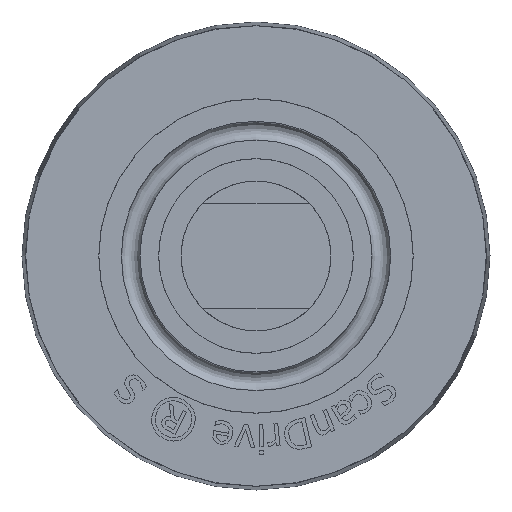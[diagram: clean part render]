
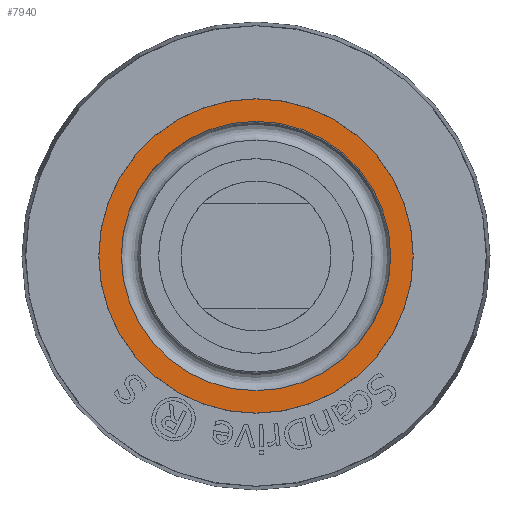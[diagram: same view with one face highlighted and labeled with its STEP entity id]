
A CAD part, left-side view. The second image highlights one B-rep face of the part: STEP entity #7940.
In plain terms, the highlighted planar face has unit normal (-1, 0, 0).
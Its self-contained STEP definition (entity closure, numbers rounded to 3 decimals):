
#60=CIRCLE('',#8324,17.99);
#61=CIRCLE('',#8326,20.99);
#151=FACE_BOUND('',#1490,.T.);
#1002=FACE_OUTER_BOUND('',#1489,.T.);
#1489=EDGE_LOOP('',(#6306));
#1490=EDGE_LOOP('',(#6307));
#3608=VERTEX_POINT('',#12298);
#3609=VERTEX_POINT('',#12301);
#4583=EDGE_CURVE('',#3608,#3608,#60,.T.);
#4584=EDGE_CURVE('',#3609,#3609,#61,.T.);
#6306=ORIENTED_EDGE('',*,*,#4584,.T.);
#6307=ORIENTED_EDGE('',*,*,#4583,.F.);
#7598=PLANE('',#8325);
#7940=ADVANCED_FACE('',(#1002,#151),#7598,.T.);
#8324=AXIS2_PLACEMENT_3D('',#12299,#9143,#9144);
#8325=AXIS2_PLACEMENT_3D('',#12300,#9145,#9146);
#8326=AXIS2_PLACEMENT_3D('',#12302,#9147,#9148);
#9143=DIRECTION('center_axis',(-1.,0.,0.));
#9144=DIRECTION('ref_axis',(0.,0.,1.));
#9145=DIRECTION('center_axis',(-1.,0.,0.));
#9146=DIRECTION('ref_axis',(0.,0.,1.));
#9147=DIRECTION('center_axis',(-1.,0.,0.));
#9148=DIRECTION('ref_axis',(0.,0.,1.));
#12298=CARTESIAN_POINT('',(-350.,0.,17.99));
#12299=CARTESIAN_POINT('Origin',(-350.,0.,0.));
#12300=CARTESIAN_POINT('Origin',(-350.,0.,17.99));
#12301=CARTESIAN_POINT('',(-350.,0.,20.99));
#12302=CARTESIAN_POINT('Origin',(-350.,0.,0.));
